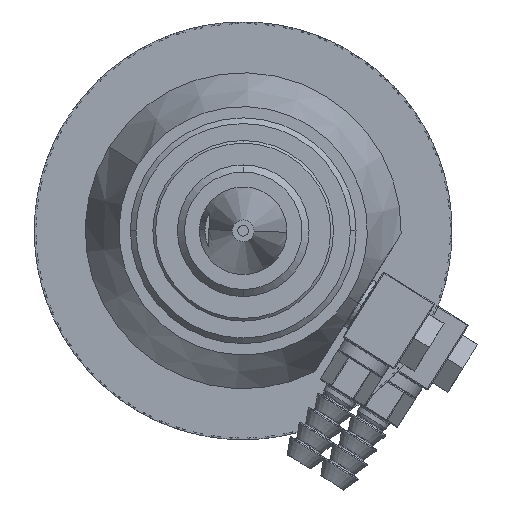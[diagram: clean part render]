
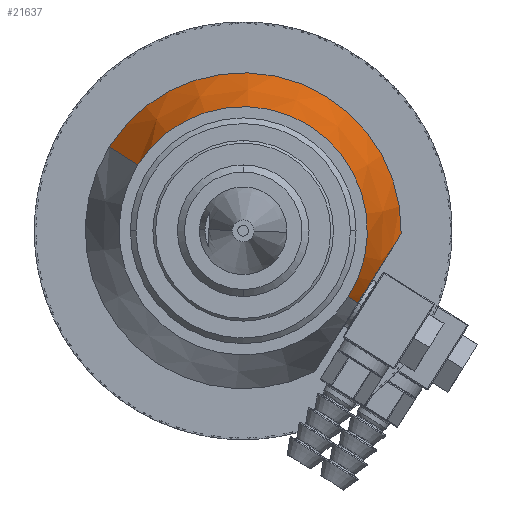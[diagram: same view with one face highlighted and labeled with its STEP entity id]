
A CAD part, front view. The second image highlights one B-rep face of the part: STEP entity #21637.
In plain terms, the highlighted conical face has half-angle 20.518 degrees and reference radius 17.462 mm.
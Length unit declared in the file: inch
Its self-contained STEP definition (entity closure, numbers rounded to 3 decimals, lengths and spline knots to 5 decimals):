
#138 = AXIS2_PLACEMENT_3D ( 'NONE', #27595, #8718, #15303 ) ;
#218 = B_SPLINE_CURVE_WITH_KNOTS ( 'NONE', 3,
 ( #8767, #15211, #36778, #30475, #14813, #14945, #30739, #18104 ),
 .UNSPECIFIED., .F., .F.,
 ( 4, 2, 2, 4 ),
 ( 0.07746, 0.07801, 0.07857, 0.07968 ),
 .UNSPECIFIED. ) ;
#531 = CARTESIAN_POINT ( 'NONE',  ( 0.25419, -0.12842, 0.05544 ) ) ;
#2425 = CARTESIAN_POINT ( 'NONE',  ( 0.16272, -0.32887, -0.09045 ) ) ;
#3387 = CARTESIAN_POINT ( 'NONE',  ( -0.62046, -0.62892, 0.07232 ) ) ;
#5193 = CARTESIAN_POINT ( 'NONE',  ( 0.07211, -0.44208, -0.23497 ) ) ;
#6925 = CARTESIAN_POINT ( 'NONE',  ( -1.36163, -0.12842, 0.53703 ) ) ;
#7980 = VECTOR ( 'NONE', #32188, 39.37008 ) ;
#8255 = ORIENTED_EDGE ( 'NONE', *, *, #12391, .T. ) ;
#8457 = CARTESIAN_POINT ( 'NONE',  ( 0.20063, -0.2559, -0.02999 ) ) ;
#8718 = DIRECTION ( 'NONE',  ( 0., 1., 0. ) ) ;
#8767 = CARTESIAN_POINT ( 'NONE',  ( 0.01497, -0.46192, -0.32609 ) ) ;
#9294 = CARTESIAN_POINT ( 'NONE',  ( -1.20293, -0.62892, 0.43753 ) ) ;
#9395 = CARTESIAN_POINT ( 'NONE',  ( 0.25419, -0.12842, 0.05544 ) ) ;
#9732 = ORIENTED_EDGE ( 'NONE', *, *, #39313, .T. ) ;
#9943 = CARTESIAN_POINT ( 'NONE',  ( -0.03798, -0.62892, -0.29289 ) ) ;
#11708 = EDGE_LOOP ( 'NONE', ( #9732, #8255, #26842, #16893, #28042, #28317 ) ) ;
#11770 = VERTEX_POINT ( 'NONE', #531 ) ;
#11910 = EDGE_CURVE ( 'NONE', #24804, #36708, #20352, .T. ) ;
#12206 = EDGE_CURVE ( 'NONE', #29195, #11770, #38862, .T. ) ;
#12391 = EDGE_CURVE ( 'NONE', #35716, #17544, #21701, .T. ) ;
#13452 = CARTESIAN_POINT ( 'NONE',  ( 0.01497, -0.46192, -0.32609 ) ) ;
#14774 = CARTESIAN_POINT ( 'NONE',  ( 0.24149, -0.16133, 0.03517 ) ) ;
#14813 = CARTESIAN_POINT ( 'NONE',  ( 0.03483, -0.45953, -0.29442 ) ) ;
#14945 = CARTESIAN_POINT ( 'NONE',  ( 0.04653, -0.45603, -0.27577 ) ) ;
#15064 = CIRCLE ( 'NONE', #138, 0.87481 ) ;
#15211 = CARTESIAN_POINT ( 'NONE',  ( 0.01895, -0.46192, -0.31976 ) ) ;
#15303 = DIRECTION ( 'NONE',  ( 0., 0., 1. ) ) ;
#15485 = AXIS2_PLACEMENT_3D ( 'NONE', #35430, #29548, #23078 ) ;
#15657 = EDGE_CURVE ( 'NONE', #36708, #11770, #15064, .T. ) ;
#15664 = AXIS2_PLACEMENT_3D ( 'NONE', #3387, #18745, #31235 ) ;
#16021 = CONICAL_SURFACE ( 'NONE', #15485, 0.6875, 0.358 ) ;
#16893 = ORIENTED_EDGE ( 'NONE', *, *, #12206, .T. ) ;
#16983 = CARTESIAN_POINT ( 'NONE',  ( -1.20293, -0.62892, 0.43753 ) ) ;
#17544 = VERTEX_POINT ( 'NONE', #13452 ) ;
#18104 = CARTESIAN_POINT ( 'NONE',  ( 0.06171, -0.44818, -0.25156 ) ) ;
#18199 = CARTESIAN_POINT ( 'NONE',  ( 0.13781, -0.36921, -0.13018 ) ) ;
#18270 = CIRCLE ( 'NONE', #15664, 0.6875 ) ;
#18745 = DIRECTION ( 'NONE',  ( 0., 1., 0. ) ) ;
#20352 = LINE ( 'NONE', #16983, #32120 ) ;
#21637 = ADVANCED_FACE ( 'NONE', ( #26390 ), #16021, .T. ) ;
#21701 = LINE ( 'NONE', #9943, #7980 ) ;
#23078 = DIRECTION ( 'NONE',  ( -0.847, 0., 0.531 ) ) ;
#24025 = CARTESIAN_POINT ( 'NONE',  ( 0.06171, -0.44818, -0.25156 ) ) ;
#24165 = CARTESIAN_POINT ( 'NONE',  ( 0.15462, -0.34276, -0.10337 ) ) ;
#24720 = EDGE_CURVE ( 'NONE', #17544, #29195, #218, .T. ) ;
#24804 = VERTEX_POINT ( 'NONE', #9294 ) ;
#25837 = DIRECTION ( 'NONE',  ( -0.297, 0.937, 0.186 ) ) ;
#26390 = FACE_OUTER_BOUND ( 'NONE', #11708, .T. ) ;
#26842 = ORIENTED_EDGE ( 'NONE', *, *, #24720, .T. ) ;
#27191 = CARTESIAN_POINT ( 'NONE',  ( 0.11118, -0.40479, -0.17266 ) ) ;
#27344 = CARTESIAN_POINT ( 'NONE',  ( 0.18612, -0.28607, -0.05313 ) ) ;
#27590 = CARTESIAN_POINT ( 'NONE',  ( 0.06171, -0.44818, -0.25156 ) ) ;
#27595 = CARTESIAN_POINT ( 'NONE',  ( -0.62046, -0.12842, 0.07232 ) ) ;
#28042 = ORIENTED_EDGE ( 'NONE', *, *, #15657, .F. ) ;
#28317 = ORIENTED_EDGE ( 'NONE', *, *, #11910, .F. ) ;
#29195 = VERTEX_POINT ( 'NONE', #27590 ) ;
#29548 = DIRECTION ( 'NONE',  ( 0., 1., 0. ) ) ;
#30435 = CARTESIAN_POINT ( 'NONE',  ( 0.22832, -0.19353, 0.01417 ) ) ;
#30475 = CARTESIAN_POINT ( 'NONE',  ( 0.0309, -0.46042, -0.30069 ) ) ;
#30703 = CARTESIAN_POINT ( 'NONE',  ( 0.08235, -0.43403, -0.21863 ) ) ;
#30739 = CARTESIAN_POINT ( 'NONE',  ( 0.05418, -0.45259, -0.26356 ) ) ;
#31235 = DIRECTION ( 'NONE',  ( -0.847, 0., 0.531 ) ) ;
#32120 = VECTOR ( 'NONE', #25837, 39.37008 ) ;
#32188 = DIRECTION ( 'NONE',  ( 0.297, 0.937, -0.186 ) ) ;
#32539 = CARTESIAN_POINT ( 'NONE',  ( -0.03798, -0.62892, -0.29289 ) ) ;
#35430 = CARTESIAN_POINT ( 'NONE',  ( -0.62046, -0.62892, 0.07232 ) ) ;
#35716 = VERTEX_POINT ( 'NONE', #32539 ) ;
#36708 = VERTEX_POINT ( 'NONE', #6925 ) ;
#36778 = CARTESIAN_POINT ( 'NONE',  ( 0.02296, -0.46162, -0.31335 ) ) ;
#38862 = B_SPLINE_CURVE_WITH_KNOTS ( 'NONE', 3,
 ( #24025, #5193, #30703, #39946, #27191, #39807, #18199, #24165, #2425, #27344, #8457, #30435, #14774, #9395 ),
 .UNSPECIFIED., .F., .F.,
 ( 4, 2, 2, 2, 2, 2, 4 ),
 ( 0.07968, 0.08121, 0.08275, 0.08428, 0.08581, 0.08888, 0.09195 ),
 .UNSPECIFIED. ) ;
#39313 = EDGE_CURVE ( 'NONE', #24804, #35716, #18270, .T. ) ;
#39807 = CARTESIAN_POINT ( 'NONE',  ( 0.12915, -0.3817, -0.14399 ) ) ;
#39946 = CARTESIAN_POINT ( 'NONE',  ( 0.10186, -0.41538, -0.18751 ) ) ;
